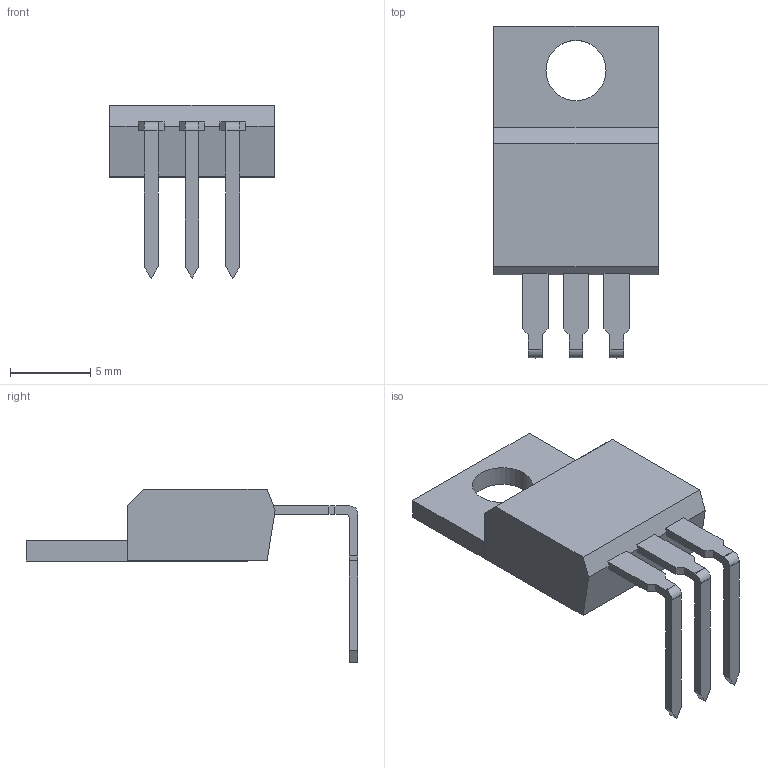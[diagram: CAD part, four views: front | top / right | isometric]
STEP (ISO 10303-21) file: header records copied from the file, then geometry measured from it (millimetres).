
FILE_DESCRIPTION(/* description */ (''),/* implementation_level */ '2;1');
FILE_NAME(/* name */ 'C:\Users\cfrauzem\Documents\embedded\lab\docs\Vehicle\Version2\Layout_Vehicle_V2.2\packages3d\Imported Components\TO-220-3_Horizontal_TabDown\TO-220-3_Horizontal_TabDown2.stp',/* time_stamp */ '2019-04-28T17:51:42+02:00',/* author */ ('cfrauzem'),/* organization */ (''),/* preprocessor_version */ 'ST-DEVELOPER v15.6',/* originating_system */ 'Autodesk Inventor 2015',/* authorisation */ '');
FILE_SCHEMA (('AUTOMOTIVE_DESIGN { 1 0 10303 214 3 1 1 }'));
Length unit declared in the file: millimetre
Products named in the file (1): TO-220-3_Horizontal_TabDown
Bounding box: 10.25 x 20.64 x 10.78 mm (x, y, z)
Volume: 493.9 mm3; surface area: 612.1 mm2
Topology: 1 solids, 1 shells, 77 faces, 225 edges, 150 vertices
Faces by surface type: plane 70, cylinder 7
Full cylindrical faces by diameter (mm): 3.735 x1
Entity records: 2678 total; most frequent: CARTESIAN_POINT 464, ORIENTED_EDGE 460, DIRECTION 400, EDGE_CURVE 230, LINE 216, VECTOR 216, VERTEX_POINT 156, AXIS2_PLACEMENT_3D 92
